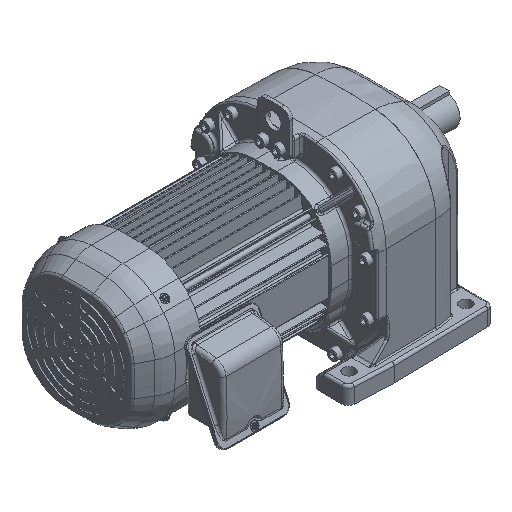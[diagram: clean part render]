
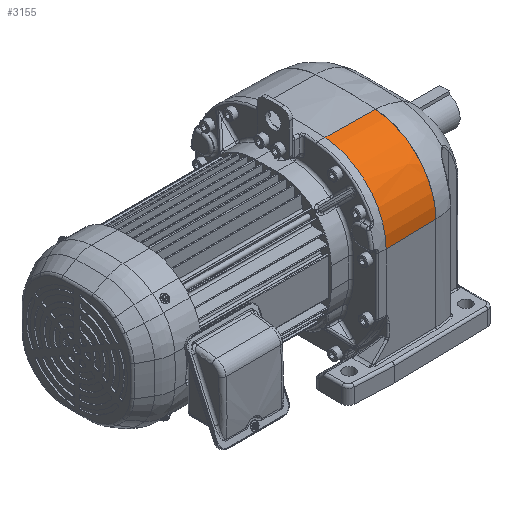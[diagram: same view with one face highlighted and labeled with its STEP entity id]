
A CAD part, isometric view. The second image highlights one B-rep face of the part: STEP entity #3155.
In plain terms, the highlighted free-form (B-spline) face has degree [2, 2] with [4, 3] control points.
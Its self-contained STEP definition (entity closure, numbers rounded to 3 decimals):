
#3155 = ADVANCED_FACE( '', ( #7623 ), #7624, .T. );
#7623 = FACE_OUTER_BOUND( '', #19810, .T. );
#7624 = ( BOUNDED_SURFACE(  )B_SPLINE_SURFACE( 2, 2, ( ( #19813, #19814, #19815 ), ( #19816, #19817, #19818 ), ( #19819, #19820, #19821 ), ( #19822, #19823, #19824 ) ), .UNSPECIFIED., .F., .F., .F. )B_SPLINE_SURFACE_WITH_KNOTS( ( 3, 1, 3 ), ( 3, 3 ), ( 0., 0.2, 1. ), ( 0., 1. ), .UNSPECIFIED. )GEOMETRIC_REPRESENTATION_ITEM(  )RATIONAL_B_SPLINE_SURFACE( ( ( 1., 0.734, 1. ), ( 1., 0.734, 1. ), ( 1., 0.734, 1. ), ( 1., 0.734, 1. ) ) )REPRESENTATION_ITEM( '' )SURFACE(  ) );
#19810 = EDGE_LOOP( '', ( #36222, #36223, #36224, #36225 ) );
#19813 = CARTESIAN_POINT( '', ( 112.819, -179.293, 137.875 ) );
#19814 = CARTESIAN_POINT( '', ( 112.819, -256.687, 131.889 ) );
#19815 = CARTESIAN_POINT( '', ( 112.819, -256.687, 54.264 ) );
#19816 = CARTESIAN_POINT( '', ( 106.316, -179.331, 137.986 ) );
#19817 = CARTESIAN_POINT( '', ( 106.316, -256.8, 131.993 ) );
#19818 = CARTESIAN_POINT( '', ( 106.316, -256.8, 54.263 ) );
#19819 = CARTESIAN_POINT( '', ( 73.801, -179.325, 138.558 ) );
#19820 = CARTESIAN_POINT( '', ( 73.801, -257.371, 132.524 ) );
#19821 = CARTESIAN_POINT( '', ( 73.801, -257.371, 54.266 ) );
#19822 = CARTESIAN_POINT( '', ( 47.789, -179.381, 139.011 ) );
#19823 = CARTESIAN_POINT( '', ( 47.789, -257.827, 132.944 ) );
#19824 = CARTESIAN_POINT( '', ( 47.789, -257.827, 54.264 ) );
#36222 = ORIENTED_EDGE( '', *, *, #48935, .T. );
#36223 = ORIENTED_EDGE( '', *, *, #49017, .F. );
#36224 = ORIENTED_EDGE( '', *, *, #48774, .F. );
#36225 = ORIENTED_EDGE( '', *, *, #49018, .F. );
#48774 = EDGE_CURVE( '', #56544, #56497, #56546, .T. );
#48935 = EDGE_CURVE( '', #56773, #55652, #56774, .T. );
#49017 = EDGE_CURVE( '', #56497, #55652, #56893, .T. );
#49018 = EDGE_CURVE( '', #56773, #56544, #56894, .T. );
#55652 = VERTEX_POINT( '', #68623 );
#56497 = VERTEX_POINT( '', #70043 );
#56544 = VERTEX_POINT( '', #70124 );
#56546 = B_SPLINE_CURVE_WITH_KNOTS( '', 2, ( #70127, #70128, #70129, #70130 ), .UNSPECIFIED., .F., .F., ( 3, 1, 3 ), ( 0., 0.2, 1. ), .UNSPECIFIED. );
#56773 = VERTEX_POINT( '', #70761 );
#56774 = B_SPLINE_CURVE_WITH_KNOTS( '', 2, ( #70762, #70763, #70764, #70765 ), .UNSPECIFIED., .F., .F., ( 3, 1, 3 ), ( 0., 0.2, 1. ), .UNSPECIFIED. );
#56893 = CIRCLE( '', #71216, 85. );
#56894 = CIRCLE( '', #71217, 83.86 );
#68623 = CARTESIAN_POINT( '', ( 47.789, -179.381, 139.011 ) );
#70043 = CARTESIAN_POINT( '', ( 47.789, -257.827, 54.264 ) );
#70124 = CARTESIAN_POINT( '', ( 112.819, -256.687, 54.264 ) );
#70127 = CARTESIAN_POINT( '', ( 112.819, -256.687, 54.264 ) );
#70128 = CARTESIAN_POINT( '', ( 106.316, -256.8, 54.263 ) );
#70129 = CARTESIAN_POINT( '', ( 73.801, -257.371, 54.266 ) );
#70130 = CARTESIAN_POINT( '', ( 47.789, -257.827, 54.264 ) );
#70761 = CARTESIAN_POINT( '', ( 112.819, -179.293, 137.875 ) );
#70762 = CARTESIAN_POINT( '', ( 112.819, -179.293, 137.875 ) );
#70763 = CARTESIAN_POINT( '', ( 106.316, -179.331, 137.986 ) );
#70764 = CARTESIAN_POINT( '', ( 73.801, -179.325, 138.558 ) );
#70765 = CARTESIAN_POINT( '', ( 47.789, -179.381, 139.011 ) );
#71216 = AXIS2_PLACEMENT_3D( '', #82213, #82214, #82215 );
#71217 = AXIS2_PLACEMENT_3D( '', #82216, #82217, #82218 );
#82213 = CARTESIAN_POINT( '', ( 47.789, -172.827, 54.264 ) );
#82214 = DIRECTION( '', ( -1., 0., 0. ) );
#82215 = DIRECTION( '', ( 0., 1., 0. ) );
#82216 = CARTESIAN_POINT( '', ( 112.819, -172.827, 54.264 ) );
#82217 = DIRECTION( '', ( 1., 0., 0. ) );
#82218 = DIRECTION( '', ( 0., -0.077, 0.997 ) );
